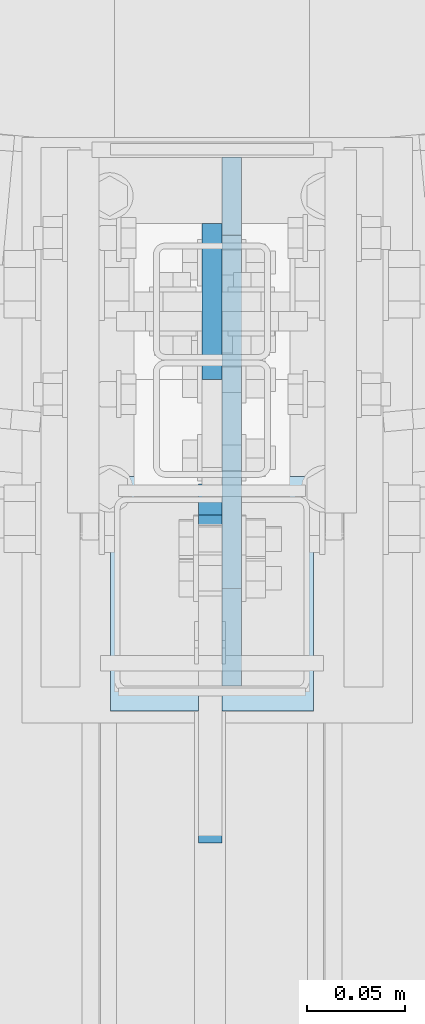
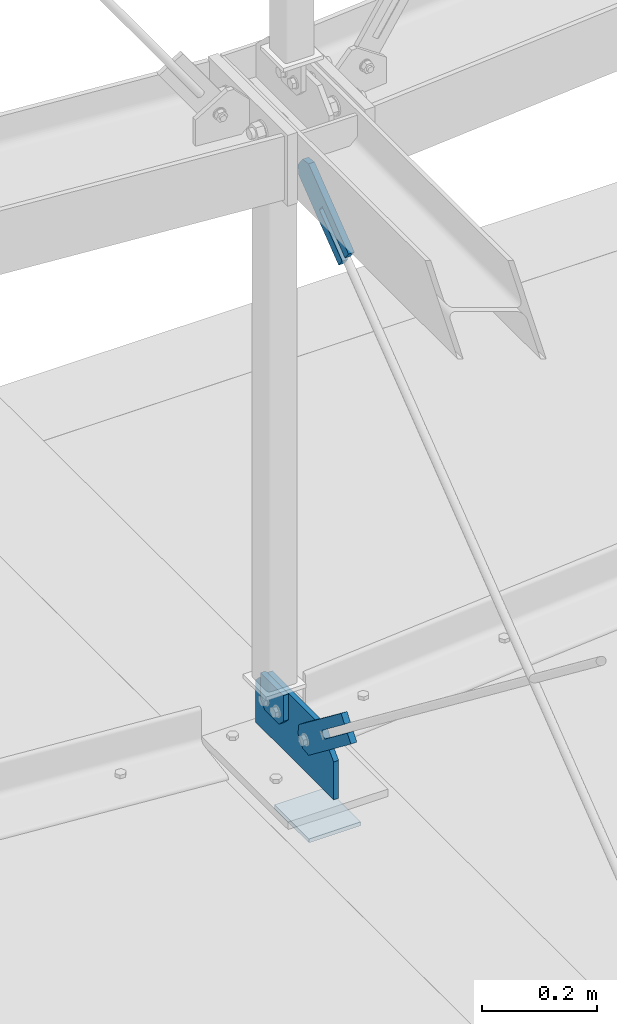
# One storey, part 128 of 271: 5 plates, 5 elements without a shape of their own.
"""IFC2X3 building model written with IfcOpenShell, lengths in millimetres."""

from ifc_helpers import new_model, si_unit, frame, origin_with_axes, place, context, subcontext, project, spatial, polyline, outline, extrude, material, type_object, element, aggregate, save


model = new_model("IFC2X3")

# Units and contexts
model_context = context("Model", 3, precision=1e-05, world=origin_with_axes())
body_context = subcontext(model_context, "Body", "Model", "MODEL_VIEW")
ifc_project = project(units=[si_unit("LENGTHUNIT", "METRE", prefix="MILLI"), si_unit("AREAUNIT", "SQUARE_METRE"), si_unit("VOLUMEUNIT", "CUBIC_METRE"), si_unit("MASSUNIT", "GRAM", prefix="KILO"), si_unit("TIMEUNIT", "SECOND"), si_unit("PLANEANGLEUNIT", "RADIAN"), si_unit("SOLIDANGLEUNIT", "STERADIAN"), si_unit("THERMODYNAMICTEMPERATUREUNIT", "DEGREE_CELSIUS"), si_unit("LUMINOUSINTENSITYUNIT", "LUMEN")], contexts=[model_context])

# Site, building, storey
site_placement = place(None, origin_with_axes())
site = spatial("IfcSite", under=ifc_project, at=site_placement, Name="Undefined", CompositionType="ELEMENT")
building_placement = place(site_placement, origin_with_axes())
building = spatial("IfcBuilding", under=site, at=building_placement, Name="Undefined", CompositionType="ELEMENT")
storey_placement = place(building_placement, origin_with_axes())
storey = spatial("IfcBuildingStorey", under=building, at=storey_placement, Name="Undefined", CompositionType="ELEMENT", Elevation=0.0)

# Assembly, plate
assembly_1_placement = place(storey_placement, origin_with_axes())
assembly_1 = element("IfcElementAssembly", 1, at=assembly_1_placement, inside=storey, AssemblyPlace="NOTDEFINED", PredefinedType="RIGID_FRAME")
ifc_material = material(Name="STEEL/S355JR")
plate_type_1 = type_object("IfcPlateType", Name="BL12*56", PredefinedType="NOTDEFINED")
plate_1_placement = place(assembly_1_placement, frame((6347.37568798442, 3668.50071056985, 102.365643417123), z_axis=(-1.0, 0.0, 1.38777878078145e-17), x_axis=(0.0, 0.130151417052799, -0.991494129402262)))
plate_1 = element("IfcPlate", 2, at=plate_1_placement, type_object=plate_type_1, material=ifc_material, Name="BLACHA", ObjectType="BL12*56", context=body_context, shape_type="SweptSolid", body=[
    extrude(outline(polyline([(0.0, 0.0), (21.2132034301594, 1.09139364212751e-11), (39.5979804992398, 18.3847751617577), (39.5979804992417, 39.5979804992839), (-91.2167739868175, 170.412734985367), (-105.358909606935, 156.270599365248), (-34.6482315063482, 85.5599212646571), (-45.9619407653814, 74.2462158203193), (-116.672622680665, 144.95689392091), (-130.814758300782, 130.814758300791), (0.0, 0.0)])), frame((0.0, 0.0, -6.0), z_axis=(0.0, 0.0, 1.0), x_axis=(1.0, 0.0, 0.0)), (0.0, 0.0, 1.0), 12.0),
])
aggregate(assembly_1, [plate_1])

assembly_2_placement = place(storey_placement, origin_with_axes())
assembly_2 = element("IfcElementAssembly", 3, at=assembly_2_placement, inside=storey, AssemblyPlace="NOTDEFINED", PredefinedType="RIGID_FRAME")
plate_2_placement = place(assembly_2_placement, frame((6347.37568798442, 3634.50946237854, 1310.4267157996), z_axis=(-1.0, 0.0, 1.38777878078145e-17), x_axis=(0.0, 0.991814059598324, -0.127690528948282)))
plate_2 = element("IfcPlate", 4, at=plate_2_placement, type_object=plate_type_1, material=ifc_material, Name="BLACHA", ObjectType="BL12*56", context=body_context, shape_type="SweptSolid", body=[
    extrude(outline(polyline([(0.0, 0.0), (21.2132034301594, 1.09139364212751e-11), (39.5979804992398, 18.3847751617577), (39.5979804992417, 39.5979804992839), (-84.1457061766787, 163.341659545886), (-98.2878417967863, 149.199523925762), (-27.577165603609, 78.488853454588), (-38.8908729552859, 67.1751480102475), (-109.60155487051, 137.885818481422), (-123.743690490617, 123.743690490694), (0.0, 0.0)])), frame((0.0, 0.0, -6.0), z_axis=(0.0, 0.0, 1.0), x_axis=(1.0, 0.0, 0.0)), (0.0, 0.0, 1.0), 12.0),
])
aggregate(assembly_2, [plate_2])

assembly_3_placement = place(storey_placement, origin_with_axes())
assembly_3 = element("IfcElementAssembly", 5, at=assembly_3_placement, inside=storey, AssemblyPlace="NOTDEFINED", PredefinedType="RIGID_FRAME")
plate_type_2 = type_object("IfcPlateType", Name="BL10*70", PredefinedType="NOTDEFINED")
plate_3_placement = place(assembly_3_placement, frame((6348.37568736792, 3724.92439872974, 74.0999999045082), z_axis=(1.0, 0.0, 0.0), x_axis=(0.0, 0.707106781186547, -0.707106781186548)))
plate_3 = element("IfcPlate", 6, at=plate_3_placement, type_object=plate_type_2, material=ifc_material, Name="BLACHA", ObjectType="BL10*70", context=body_context, shape_type="SweptSolid", body=[
    extrude(outline(polyline([(0.0, 0.0), (21.2132034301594, 1.09139364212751e-11), (56.5685424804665, 35.3553390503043), (56.568542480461, 56.5685424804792), (17.6776695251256, 95.4594192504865), (-38.890872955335, 38.8908729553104), (0.0, 0.0)])), frame((0.0, 0.0, -5.0), z_axis=(0.0, 0.0, 1.0), x_axis=(1.0, 0.0, 0.0)), (0.0, 0.0, 1.0), 10.0),
])
aggregate(assembly_3, [plate_3])

assembly_4_placement = place(storey_placement, origin_with_axes())
assembly_4 = element("IfcElementAssembly", 7, at=assembly_4_placement, inside=storey, AssemblyPlace="NOTDEFINED", PredefinedType="RIGID_FRAME")
plate_type_3 = type_object("IfcPlateType", Name="BL10*130", PredefinedType="NOTDEFINED")
plate_4_placement = place(assembly_4_placement, frame((6358.37568736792, 3838.92439872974, -0.150000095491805), z_axis=(-1.0, 0.0, 1.38777878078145e-17), x_axis=(0.0, -1.0, 0.0)))
plate_4 = element("IfcPlate", 8, at=plate_4_placement, type_object=plate_type_3, material=ifc_material, Name="BLACHA", ObjectType="BL10*130", context=body_context, shape_type="SweptSolid", body=[
    extrude(outline(polyline([(0.0, 0.0), (271.0, 0.0), (271.0, 80.0), (221.0, 130.0), (40.0, 130.0), (0.0, 90.0), (0.0, 0.0)])), frame((0.0, 0.0, -5.0), z_axis=(0.0, 0.0, 1.0), x_axis=(1.0, 0.0, 0.0)), (0.0, 0.0, 1.0), 10.0),
])
aggregate(assembly_4, [plate_4])

assembly_5_placement = place(storey_placement, origin_with_axes())
assembly_5 = element("IfcElementAssembly", 9, at=assembly_5_placement, inside=storey, AssemblyPlace="NOTDEFINED", PredefinedType="RIGID_FRAME")
plate_type_4 = type_object("IfcPlateType", Name="BL8*104", PredefinedType="NOTDEFINED")
plate_5_placement = place(assembly_5_placement, frame((6400.37568736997, 3675.32498425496, -59.6500000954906), z_axis=(0.0, 0.0, 1.0), x_axis=(-1.0, 0.0, 1.38777878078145e-17)))
plate_5 = element("IfcPlate", 10, at=plate_5_placement, type_object=plate_type_4, material=ifc_material, Name="BLACHA", ObjectType="BL8*104", context=body_context, shape_type="SweptSolid", body=[
    extrude(outline(polyline([(0.0, 0.0), (104.0, 0.0), (104.0, 120.0), (0.0, 120.0), (0.0, 0.0)])), frame((0.0, 0.0, -4.0), z_axis=(0.0, 0.0, 1.0), x_axis=(1.0, 0.0, 0.0)), (0.0, 0.0, 1.0), 8.0),
])
aggregate(assembly_5, [plate_5])

save(model, "model.ifc")
